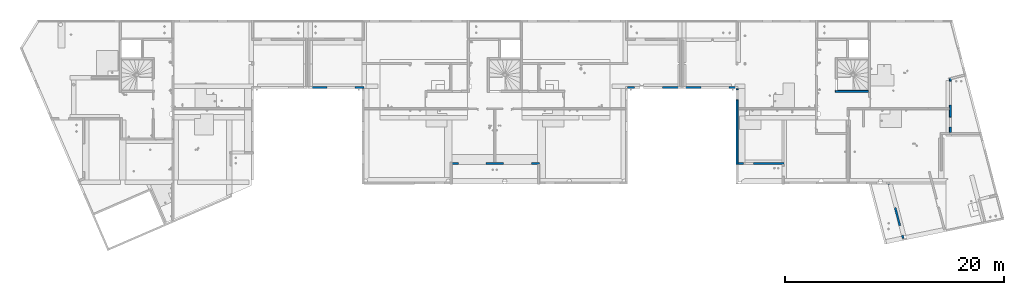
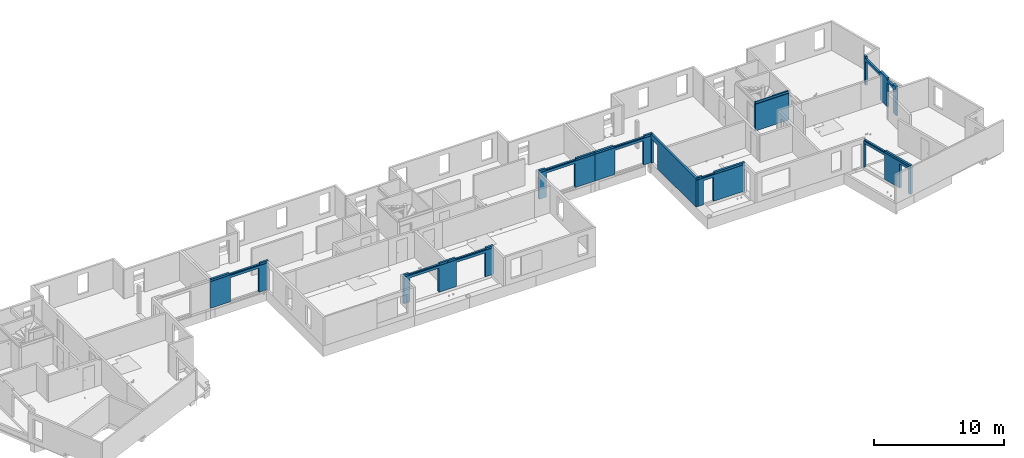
# One storey, part 26 of 34: 9 walls.
"""IFC2X3 building model written with IfcOpenShell, lengths in centimetres."""

from ifc_helpers import new_model, entity, si_unit, converted_unit, derived_unit, direction, frame, origin, place, context, subcontext, project, spatial, faceted_brep, material, layer, layer_set, type_object, element, save


model = new_model("IFC2X3")

# Units and contexts
model_context = context("Model", 3, precision=0.001, world=origin(), true_north=direction((6.12303176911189e-17, 1.0)))
body_context = subcontext(model_context, "Body", "Model", "MODEL_VIEW")
ifc_project = project(units=[si_unit("LENGTHUNIT", "METRE", prefix="CENTI"), si_unit("AREAUNIT", "SQUARE_METRE"), si_unit("VOLUMEUNIT", "CUBIC_METRE"), converted_unit("PLANEANGLEUNIT", "DEGREE", entity("IfcRatioMeasure", 0.0174532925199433), si_unit("PLANEANGLEUNIT", "RADIAN"), dimensions=[0, 0, 0, 0, 0, 0, 0]), si_unit("MASSUNIT", "GRAM", prefix="KILO"), derived_unit("MASSDENSITYUNIT", [(si_unit("MASSUNIT", "GRAM", prefix="KILO"), 1), (si_unit("LENGTHUNIT", "METRE"), -3)]), si_unit("TIMEUNIT", "SECOND"), si_unit("FREQUENCYUNIT", "HERTZ"), si_unit("THERMODYNAMICTEMPERATUREUNIT", "DEGREE_CELSIUS"), derived_unit("THERMALTRANSMITTANCEUNIT", [(si_unit("MASSUNIT", "GRAM", prefix="KILO"), 1), (si_unit("THERMODYNAMICTEMPERATUREUNIT", "KELVIN"), -1), (si_unit("TIMEUNIT", "SECOND"), -3)]), derived_unit("VOLUMETRICFLOWRATEUNIT", [(si_unit("LENGTHUNIT", "METRE"), 3), (si_unit("TIMEUNIT", "SECOND"), -1)]), si_unit("ELECTRICCURRENTUNIT", "AMPERE"), si_unit("ELECTRICVOLTAGEUNIT", "VOLT"), si_unit("POWERUNIT", "WATT"), si_unit("FORCEUNIT", "NEWTON"), si_unit("ILLUMINANCEUNIT", "LUX"), si_unit("LUMINOUSFLUXUNIT", "LUMEN"), si_unit("LUMINOUSINTENSITYUNIT", "CANDELA"), derived_unit("USERDEFINED", [(si_unit("MASSUNIT", "GRAM", prefix="KILO"), -1), (si_unit("LENGTHUNIT", "METRE"), -2), (si_unit("TIMEUNIT", "SECOND"), 3), (si_unit("LUMINOUSFLUXUNIT", "LUMEN"), 1)]), derived_unit("LINEARVELOCITYUNIT", [(si_unit("LENGTHUNIT", "METRE"), 1), (si_unit("TIMEUNIT", "SECOND"), -1)]), si_unit("PRESSUREUNIT", "PASCAL"), derived_unit("USERDEFINED", [(si_unit("LENGTHUNIT", "METRE"), -2), (si_unit("MASSUNIT", "GRAM", prefix="KILO"), 1), (si_unit("TIMEUNIT", "SECOND"), -2)])], contexts=[model_context])

# Site, building, storey
site_placement = place(None, origin())
site = spatial("IfcSite", under=ifc_project, at=site_placement, Name="Default", CompositionType="ELEMENT")
building_placement = place(site_placement, origin())
building = spatial("IfcBuilding", under=site, at=building_placement, Name="CAGE 03", CompositionType="ELEMENT")
storey_placement = place(building_placement, frame((0.0, 0.0, 340.0)))
storey = spatial("IfcBuildingStorey", under=building, at=storey_placement, Name="R+1", CompositionType="ELEMENT", Elevation=340.0)

# Walls
ifc_material = material(Name="Béton, C25/30")
ifc_layer = layer(ifc_material, 18.0)
ifc_layer_set = layer_set([ifc_layer], Name="Mur de base:Voile BA 18")
wall_type_1 = type_object("IfcWallType", Name="Mur de base:Voile BA 18", PredefinedType="STANDARD", material=ifc_layer_set)
wall_1_placement = place(storey_placement, frame((6691.36582014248, 3985.6606660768, 0.0)))
element("IfcWall", 1, at=wall_1_placement, inside=storey, type_object=wall_type_1, Name="Mur de base:Voile BA 18", ObjectType="Mur de base:Voile BA 18", context=body_context, shape_type="Brep", body=[
    faceted_brep([(0.0, -9.0, 270.0), (0.0, -9.0, 0.0), (56.0, -9.0, 0.0), (56.0, -9.0, 226.0), (311.0, -9.0, 226.0), (311.0, -9.0, 0.0), (469.0, -9.0, 0.0), (469.0, -9.0, 226.0), (724.0, -9.0, 226.0), (724.0, -9.0, 0.0), (780.0, -9.0, 0.0), (798.0, -9.0, 0.0), (798.0, -9.0, 250.0), (798.0, -9.0, 270.0), (780.0, -9.0, 270.0), (724.0, -9.0, 270.0), (724.0, -9.0, 269.589956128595), (779.0, -9.0, 269.589956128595), (779.0, -9.0, 250.0), (776.0, -9.0, 250.0), (776.0, -9.0, 251.0), (775.0, -9.0, 251.466307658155), (775.0, -9.0, 250.0), (394.499999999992, -9.0, 250.0), (394.499999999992, -9.0, 251.466307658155), (393.499999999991, -9.0, 251.0), (393.499999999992, -9.0, 250.0), (390.499999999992, -9.0, 250.0), (390.499999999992, -9.0, 269.589956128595), (469.0, -9.0, 269.589956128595), (469.0, -9.0, 270.0), (311.0, -9.0, 270.0), (311.0, -9.0, 269.589956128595), (389.5, -9.0, 269.589956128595), (389.5, -9.0, 250.0), (386.499999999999, -9.0, 250.0), (386.499999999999, -9.0, 251.0), (385.5, -9.0, 251.466307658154), (385.5, -9.0, 250.0), (5.0, -9.0, 250.0), (5.0, -9.0, 251.466307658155), (4.0, -9.0, 251.0), (4.0, -9.0, 250.0), (1.0, -9.0, 250.0), (1.0, -9.0, 269.589956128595), (56.0, -9.0, 269.589956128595), (56.0, -9.0, 270.0), (56.0, 9.0, 0.0), (0.0, 9.0, 0.0), (0.0, 9.0, 250.0), (0.0, 9.0, 270.0), (48.0, 9.0, 270.0), (48.0, 9.0, 258.0), (319.0, 9.0, 258.0), (319.0, 9.0, 270.0), (461.0, 9.0, 270.0), (461.0, 9.0, 258.0), (732.0, 9.0, 258.0), (732.0, 9.0, 270.0), (798.0, 9.0, 270.0), (798.0, 9.0, 250.0), (798.0, 9.0, 0.0), (724.0, 9.0, 0.0), (724.0, 9.0, 226.0), (469.0, 9.0, 226.0), (469.0, 9.0, 0.0), (399.0, 9.0, 0.0), (381.0, 9.0, 0.0), (311.0, 9.0, 0.0), (311.0, 9.0, 226.0), (56.0, 9.0, 226.0), (732.0, -7.0, 270.0), (724.0, -7.0, 270.0), (389.5, -7.0, 250.0), (389.5, -7.0, 269.609958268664), (319.0, -7.0, 269.609958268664), (319.0, -7.0, 258.0), (48.0, -7.0, 258.0), (48.0, -7.0, 269.609958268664), (1.0, -7.0, 269.609958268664), (1.0, -7.0, 250.0), (4.0, -7.0, 250.0), (4.0, -7.0, 251.0), (5.0, -7.0, 251.466307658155), (5.0, -7.0, 250.0), (385.5, -7.0, 250.0), (385.5, -7.0, 251.466307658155), (386.499999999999, -7.0, 251.0), (386.499999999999, -7.0, 250.0), (461.0, -7.0, 258.0), (732.0, -7.0, 258.0), (394.499999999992, -7.0, 250.0), (775.0, -7.0, 250.0), (775.0, -7.0, 251.466307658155), (776.0, -7.0, 251.0), (776.0, -7.0, 250.0), (779.0, -7.0, 250.0), (779.0, -7.0, 269.609958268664), (732.0, -7.0, 269.609958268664), (461.0, -7.0, 269.609958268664), (390.499999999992, -7.0, 269.609958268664), (390.499999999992, -7.0, 250.0), (393.499999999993, -7.0, 250.0), (393.499999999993, -7.0, 251.0), (394.499999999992, -7.0, 251.466307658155), (56.0, -7.0, 269.609958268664), (56.0, -7.0, 270.0), (311.0, -7.0, 269.609958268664), (311.0, -7.0, 270.0), (469.0, -7.0, 269.609958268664), (469.0, -7.0, 270.0), (724.0, -7.0, 269.609958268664), (319.0, -7.0, 270.0), (48.0, -7.0, 270.0), (461.0, -7.0, 270.0)], [[[0, 1, 2, 3, 4, 5, 6, 7, 8, 9, 10, 11, 12, 13, 14, 15, 16, 17, 18, 19, 20, 21, 22, 23, 24, 25, 26, 27, 28, 29, 30, 31, 32, 33, 34, 35, 36, 37, 38, 39, 40, 41, 42, 43, 44, 45, 46]], [[47, 48, 49, 50, 51, 52, 53, 54, 55, 56, 57, 58, 59, 60, 61, 62, 63, 64, 65, 66, 67, 68, 69, 70]], [[1, 48, 47, 2]], [[13, 59, 58, 71, 72, 15, 14]], [[1, 0, 50, 49, 48]], [[11, 61, 60, 59, 13, 12]], [[4, 69, 68, 5]], [[69, 4, 3, 70]], [[70, 3, 2, 47]], [[8, 63, 62, 9]], [[63, 8, 7, 64]], [[64, 7, 6, 65]], [[73, 74, 75, 76, 77, 78, 79, 80, 81, 82, 83, 84, 85, 86, 87, 88]], [[56, 89, 90, 57]], [[91, 92, 93, 94, 95, 96, 97, 98, 90, 89, 99, 100, 101, 102, 103, 104]], [[81, 80, 43, 42]], [[105, 45, 44, 79, 78]], [[45, 105, 106, 46]], [[107, 32, 31, 108]], [[52, 77, 76, 53]], [[74, 73, 34, 33]], [[80, 79, 44, 43]], [[30, 29, 109, 110]], [[16, 15, 72, 111]], [[102, 101, 27, 26]], [[99, 109, 29, 28, 100]], [[101, 100, 28, 27]], [[97, 96, 18, 17]], [[75, 107, 108, 112]], [[105, 78, 113, 106]], [[88, 87, 36, 35]], [[86, 85, 38, 37]], [[87, 86, 37, 36]], [[82, 81, 42, 41]], [[84, 83, 40, 39]], [[83, 82, 41, 40]], [[98, 111, 72, 71]], [[109, 99, 114, 110]], [[95, 94, 20, 19]], [[93, 92, 22, 21]], [[94, 93, 21, 20]], [[103, 102, 26, 25]], [[91, 104, 24, 23]], [[104, 103, 25, 24]], [[76, 75, 112, 54, 53]], [[78, 77, 52, 51, 113]], [[90, 98, 71, 58, 57]], [[99, 89, 56, 55, 114]], [[98, 97, 17, 16, 111]], [[92, 91, 23, 22]], [[96, 95, 19, 18]], [[74, 33, 32, 107, 75]], [[85, 84, 39, 38]], [[73, 88, 35, 34]], [[31, 30, 110, 114, 55, 54, 112, 108]], [[50, 0, 46, 106, 113, 51]], [[5, 68, 67, 66, 65, 6]], [[61, 11, 10, 9, 62]]]),
])
wall_2_placement = place(storey_placement, frame((8292.36582014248, 4677.6606660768, 0.0)))
element("IfcWall", 2, at=wall_2_placement, inside=storey, type_object=wall_type_1, Name="Mur de base:Voile BA 18", ObjectType="Mur de base:Voile BA 18", context=body_context, shape_type="Brep", body=[
    faceted_brep([(0.0, -9.0, 270.0), (0.0, -9.0, 0.0), (65.0, -9.0, 0.0), (65.0, -9.0, 226.0), (320.0, -9.0, 226.0), (320.0, -9.0, 0.0), (460.0, -9.0, 0.0), (495.0, -9.0, 0.0), (495.0, -9.0, 250.0), (492.0, -9.0, 250.0), (492.0, -9.0, 251.0), (491.0, -9.0, 251.466307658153), (491.0, -9.0, 250.0), (5.0, -9.0, 250.0), (5.0, -9.0, 251.466307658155), (4.0, -9.0, 251.0), (4.0, -9.0, 250.0), (1.0, -9.0, 250.0), (1.0, -9.0, 269.589956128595), (65.0, -9.0, 269.589956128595), (65.0, -9.0, 270.0), (495.0, 9.0, 270.0), (495.0, 9.0, 0.0), (477.0, 9.0, 0.0), (460.0, 9.0, 0.0), (328.0, 9.0, 0.0), (320.0, 9.0, 0.0), (320.0, 9.0, 226.0), (65.0, 9.0, 226.0), (65.0, 9.0, 0.0), (0.0, 9.0, 0.0), (0.0, 9.0, 250.0), (0.0, 9.0, 270.0), (57.0, 9.0, 270.0), (57.0, 9.0, 258.0), (328.0, 9.0, 258.0), (328.0, 9.0, 270.0), (477.0, 9.0, 270.0), (495.0, -9.0, 270.0), (328.0, -7.0, 270.0), (320.0, -7.0, 270.0), (320.0, -9.0, 270.0), (495.0, -9.0, 269.589956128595), (495.0, -7.0, 269.609958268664), (495.0, -7.0, 250.0), (320.0, -7.0, 0.0), (4.0, -7.0, 250.0), (1.0, -7.0, 250.0), (57.0, -7.0, 269.609958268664), (65.0, -7.0, 269.609958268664), (1.0, -7.0, 269.609958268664), (65.0, -7.0, 270.0), (320.0, -9.0, 269.589956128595), (320.0, -7.0, 269.609958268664), (57.0, -7.0, 258.0), (328.0, -7.0, 258.0), (5.0, -7.0, 250.0), (491.0, -7.0, 250.0), (491.0, -7.0, 251.466307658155), (492.0, -7.0, 251.0), (492.0, -7.0, 250.0), (328.0, -7.0, 269.609958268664), (4.0, -7.0, 251.0), (5.0, -7.0, 251.466307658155), (57.0, -7.0, 270.0)], [[[0, 1, 2, 3, 4, 5, 6, 7, 8, 9, 10, 11, 12, 13, 14, 15, 16, 17, 18, 19, 20]], [[21, 22, 23, 24, 25, 26, 27, 28, 29, 30, 31, 32, 33, 34, 35, 36, 37]], [[1, 30, 29, 2]], [[38, 21, 37, 36, 39, 40, 41]], [[1, 0, 32, 31, 30]], [[7, 22, 21, 38, 42, 43, 44, 8]], [[4, 27, 26, 45, 5]], [[27, 4, 3, 28]], [[28, 3, 2, 29]], [[46, 47, 17, 16]], [[48, 49, 19, 18, 50]], [[20, 19, 49, 51]], [[52, 41, 40, 53]], [[34, 54, 55, 35]], [[56, 57, 58, 59, 60, 44, 43, 61, 55, 54, 48, 50, 47, 46, 62, 63]], [[47, 50, 18, 17]], [[61, 53, 40, 39]], [[49, 48, 64, 51]], [[48, 54, 34, 33, 64]], [[60, 59, 10, 9]], [[58, 57, 12, 11]], [[59, 58, 11, 10]], [[62, 46, 16, 15]], [[56, 63, 14, 13]], [[63, 62, 15, 14]], [[55, 61, 39, 36, 35]], [[61, 43, 42, 52, 53]], [[57, 56, 13, 12]], [[44, 60, 9, 8]], [[32, 0, 20, 51, 64, 33]], [[22, 7, 6, 5, 45, 26, 25, 24, 23]], [[38, 41, 52, 42]]]),
])
wall_3_placement = place(storey_placement, frame((9293.36582014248, 4668.66066607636, 0.0), z_axis=(0.0, 0.0, 1.0), x_axis=(0.0, -1.0, 0.0)))
element("IfcWall", 3, at=wall_3_placement, inside=storey, type_object=wall_type_1, Name="Mur de base:Voile BA 18", ObjectType="Mur de base:Voile BA 18", context=body_context, shape_type="Brep", body=[
    faceted_brep([(0.0, -9.0, 270.0), (0.0, -9.0, 0.0), (12.0, -9.0, 0.0), (12.0, -9.0, 226.0), (103.0, -9.0, 226.0), (103.0, -9.0, 0.0), (692.0, -9.0, 0.0), (692.0, -9.0, 250.0), (690.0, -9.0, 250.0), (690.0, -9.0, 270.0), (103.0, -9.0, 270.0), (12.0, -9.0, 270.0), (0.0, 9.0, 0.0), (0.0, 9.0, 250.0), (0.0, 9.0, 270.0), (12.0, 9.0, 270.0), (103.0, 9.0, 270.0), (674.0, 9.0, 270.0), (690.0, 9.0, 270.0), (690.0, 9.0, 250.0), (692.0, 9.0, 250.0), (692.0, 9.0, 0.0), (674.0, 9.0, 0.0), (194.0, 9.0, 0.0), (176.0, 9.0, 0.0), (103.0, 9.0, 0.0), (103.0, 9.0, 226.0), (12.0, 9.0, 226.0), (12.0, 9.0, 0.0), (692.0, -5.0, 250.0), (692.0, -5.0, 251.466307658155), (692.0, -6.0, 251.0), (692.0, -6.0, 250.0), (690.0, -5.0, 251.466307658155), (690.0, -5.0, 250.0), (690.0, -6.0, 250.0), (690.0, -6.0, 251.0)], [[[0, 1, 2, 3, 4, 5, 6, 7, 8, 9, 10, 11]], [[12, 13, 14, 15, 16, 17, 18, 19, 20, 21, 22, 23, 24, 25, 26, 27, 28]], [[1, 12, 28, 2]], [[14, 0, 11, 10, 9, 18, 17, 16, 15]], [[1, 0, 14, 13, 12]], [[6, 21, 20, 29, 30, 31, 32, 7]], [[4, 26, 25, 5]], [[26, 4, 3, 27]], [[27, 3, 2, 28]], [[33, 34, 19, 18, 9, 8, 35, 36]], [[35, 8, 7, 32]], [[36, 35, 32, 31]], [[34, 33, 30, 29]], [[33, 36, 31, 30]], [[34, 29, 20, 19]], [[21, 6, 5, 25, 24, 23, 22]]]),
])
wall_4_placement = place(storey_placement, frame((9302.36582014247, 3985.66066607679, 0.0)))
element("IfcWall", 4, at=wall_4_placement, inside=storey, type_object=wall_type_1, Name="Mur de base:Voile BA 18", ObjectType="Mur de base:Voile BA 18", context=body_context, shape_type="Brep", body=[
    faceted_brep([(49.5000000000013, -9.0, 270.0), (49.0, -9.0, 270.0), (0.0, -9.0, 270.0), (0.0358741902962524, -9.0, 269.589956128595), (49.5000000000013, -9.0, 269.589956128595), (419.0, 9.0, 0.0), (401.0, 9.0, 0.0), (140.0, 9.0, 0.0), (140.0, 9.0, 226.0), (49.0, 9.0, 226.0), (49.0, 9.0, 0.0), (0.0, 9.0, 0.0), (0.0, 9.0, 250.0), (0.0, 9.0, 270.0), (41.5000000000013, 9.0, 270.0), (41.5000000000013, 9.0, 258.0), (147.500000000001, 9.0, 258.0), (147.500000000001, 9.0, 270.0), (419.0, 9.0, 270.0), (419.0, 9.0, 250.0), (0.0, -9.0, 0.0), (49.0, -9.0, 0.0), (419.0, -9.0, 270.0), (147.500000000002, -7.0, 270.0), (139.500000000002, -7.0, 270.0), (139.500000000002, -9.0, 270.0), (140.0, -9.0, 270.0), (401.0, -9.0, 270.0), (0.0, -9.0, 250.0), (0.0, -7.0, 250.0), (0.0, -7.0, 270.0), (419.0, -9.0, 0.0), (419.0, -9.0, 250.0), (140.0, -9.0, 226.0), (140.0, -9.0, 0.0), (49.0, -9.0, 226.0), (0.034124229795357, -7.0, 269.609958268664), (400.0, -7.0, 250.0), (400.0, -7.0, 269.609958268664), (147.500000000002, -7.0, 269.609958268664), (147.500000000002, -7.0, 258.0), (41.5000000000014, -7.0, 258.0), (41.5000000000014, -7.0, 269.609958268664), (396.0, -7.0, 250.0), (396.0, -7.0, 251.466307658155), (397.0, -7.0, 251.0), (397.0, -7.0, 250.0), (49.5000000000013, -7.0, 269.609958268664), (49.5000000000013, -7.0, 270.0), (139.500000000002, -9.0, 269.589956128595), (139.500000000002, -7.0, 269.609958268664), (400.0, -9.0, 250.0), (400.0, -9.0, 269.589956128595), (396.0, -9.0, 250.0), (41.5000000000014, -7.0, 270.0), (397.0, -9.0, 251.0), (397.0, -9.0, 250.0), (396.0, -9.0, 251.466307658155), (401.0, -9.0, 0.0)], [[[0, 1, 2, 3, 4]], [[5, 6, 7, 8, 9, 10, 11, 12, 13, 14, 15, 16, 17, 18, 19]], [[20, 11, 10, 21]], [[22, 18, 17, 23, 24, 25, 26, 27]], [[11, 20, 28, 29, 30, 13, 12]], [[31, 5, 19, 18, 22, 32]], [[33, 8, 7, 34]], [[8, 33, 35, 9]], [[9, 35, 21, 10]], [[30, 36, 3, 2]], [[37, 38, 39, 40, 41, 42, 36, 30, 29, 43, 44, 45, 46]], [[0, 4, 47, 48]], [[49, 25, 24, 50]], [[15, 41, 40, 16]], [[38, 37, 51, 52]], [[36, 42, 47, 4, 3]], [[53, 43, 29, 28]], [[23, 39, 50, 24]], [[47, 42, 54, 48]], [[46, 45, 55, 56]], [[44, 43, 53, 57]], [[45, 44, 57, 55]], [[39, 23, 17, 16, 40]], [[42, 41, 15, 14, 54]], [[37, 46, 56, 51]], [[39, 38, 52, 49, 50]], [[2, 1, 0, 48, 54, 14, 13, 30]], [[5, 31, 58, 34, 7, 6]], [[34, 58, 31, 32, 22, 27, 26, 25, 49, 52, 51, 56, 55, 57, 53, 28, 20, 21, 35, 33]]]),
])
wall_5_placement = place(storey_placement, frame((10678.3331842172, 3798.9347832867, 0.0), z_axis=(0.0, 0.0, 1.0), x_axis=(0.252679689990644, -0.967549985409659, 0.0)))
element("IfcWall", 5, at=wall_5_placement, inside=storey, type_object=wall_type_1, Name="Mur de base:Voile BA 18", ObjectType="Mur de base:Voile BA 18", context=body_context, shape_type="Brep", body=[
    faceted_brep([(6.0409106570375, -9.0, 270.0), (0.0, -9.0, 270.0), (0.0, -9.0, 269.589956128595), (6.04091065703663, -9.0, 269.589956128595), (6.0409106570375, -7.0, 269.609958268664), (6.04091065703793, -7.0, 270.0), (0.522308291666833, -7.0, 269.609958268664), (0.522308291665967, -7.0, 270.0)], [[[0, 1, 2, 3]], [[0, 3, 4, 5]], [[6, 4, 3, 2]], [[4, 6, 7, 5]], [[2, 1, 7, 6]], [[1, 0, 5, 7]]]),
    faceted_brep([(515.782049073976, 9.0, 0.0), (486.040910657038, 9.0, 0.0), (486.040910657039, 9.0, 226.0), (395.040910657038, 9.0, 226.0), (395.040910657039, 9.0, 0.0), (226.040910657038, 9.0, 0.0), (226.040910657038, 9.0, 226.0), (6.04091065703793, 9.0, 226.0), (6.04091065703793, 9.0, 0.0), (4.70077462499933, 9.0, 0.0), (4.7007746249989, 9.0, 250.0), (4.7007746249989, 9.0, 258.0), (234.040910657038, 9.0, 258.0), (234.040910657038, 9.0, 270.0), (395.040910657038, 9.0, 270.0), (486.040910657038, 9.0, 270.0), (515.782049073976, 9.0, 270.0), (515.782049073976, 9.0, 250.0), (0.0, -9.0, 0.0), (6.04091065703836, -9.0, 0.0), (514.841757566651, -9.0, 270.0), (234.040910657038, -7.0, 270.0), (226.040910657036, -7.0, 270.0), (226.040910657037, -9.0, 270.0), (395.040910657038, -9.0, 270.0), (486.040910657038, -9.0, 270.0), (0.0, -9.0, 250.0), (0.5223082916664, -7.0, 250.0), (0.5223082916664, -7.0, 258.0), (514.841757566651, -9.0, 0.0), (486.040910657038, -9.0, 226.0), (486.040910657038, -9.0, 0.0), (395.040910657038, -9.0, 226.0), (395.040910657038, -9.0, 0.0), (226.040910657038, -9.0, 226.0), (226.040910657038, -9.0, 0.0), (6.04091065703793, -9.0, 226.0), (234.040910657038, -7.0, 258.0), (226.040910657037, -9.0, 269.589956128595), (226.040910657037, -7.0, 269.609958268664), (2.04091065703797, -7.0, 250.0), (509.939416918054, -7.0, 250.0), (509.939416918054, -7.0, 251.466307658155), (510.940780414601, -7.0, 251.0), (510.940780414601, -7.0, 250.0), (513.944870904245, -7.0, 250.0), (513.944870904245, -7.0, 269.609958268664), (234.040910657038, -7.0, 269.609958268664), (1.04091065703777, -7.0, 250.0), (1.04091065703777, -7.0, 251.0), (2.04091065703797, -7.0, 251.466307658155), (1.04091065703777, -9.0, 250.0), (513.840394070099, -9.0, 250.0), (513.840394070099, -9.0, 269.589956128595), (510.836303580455, -9.0, 251.0), (510.836303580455, -9.0, 250.0), (509.834940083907, -9.0, 250.0), (509.834940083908, -9.0, 251.466307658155), (1.04091065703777, -9.0, 251.0), (2.04091065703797, -9.0, 251.466307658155), (2.04091065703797, -9.0, 250.0), (513.883798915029, -9.0, 0.0)], [[[0, 1, 2, 3, 4, 5, 6, 7, 8, 9, 10, 11, 12, 13, 14, 15, 16, 17]], [[18, 9, 8, 19]], [[20, 16, 15, 14, 13, 21, 22, 23, 24, 25]], [[9, 18, 26, 27, 28, 11, 10]], [[20, 29, 0, 17, 16]], [[30, 2, 1, 31]], [[2, 30, 32, 3]], [[3, 32, 33, 4]], [[34, 6, 5, 35]], [[6, 34, 36, 7]], [[7, 36, 19, 8]], [[11, 28, 37, 12]], [[38, 23, 22, 39]], [[40, 41, 42, 43, 44, 45, 46, 47, 37, 28, 27, 48, 49, 50]], [[51, 48, 27, 26]], [[46, 45, 52, 53]], [[47, 39, 22, 21]], [[44, 43, 54, 55]], [[42, 41, 56, 57]], [[43, 42, 57, 54]], [[49, 48, 51, 58]], [[40, 50, 59, 60]], [[50, 49, 58, 59]], [[37, 47, 21, 13, 12]], [[47, 46, 53, 38, 39]], [[41, 40, 60, 56]], [[45, 44, 55, 52]], [[4, 33, 35, 5]], [[0, 29, 61, 31, 1]], [[29, 20, 25, 24, 23, 38, 53, 52, 55, 54, 57, 56, 60, 59, 58, 51, 26, 18, 19, 36, 34, 35, 33, 32, 30, 31, 61]]]),
])
wall_6_placement = place(storey_placement, frame((11239.3658201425, 4266.66066607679, 0.0), z_axis=(0.0, 0.0, 1.0), x_axis=(0.0, 1.0, 0.0)))
element("IfcWall", 6, at=wall_6_placement, inside=storey, type_object=wall_type_1, Name="Mur de base:Voile BA 18", ObjectType="Mur de base:Voile BA 18", context=body_context, shape_type="Brep", body=[
    faceted_brep([(0.0, -9.0, 0.0), (50.0, -9.0, 0.0), (50.0, -9.0, 226.0), (141.0, -9.0, 226.0), (141.0, -9.0, 0.0), (250.0, -9.0, 0.0), (250.0, -9.0, 226.0), (470.0, -9.0, 226.0), (470.0, -9.0, 0.0), (483.640736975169, -9.0, 0.0), (495.0, -9.0, 0.0), (502.244426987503, -9.0, 0.0), (502.244426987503, -9.0, 250.0), (502.244426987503, -9.0, 270.0), (483.640736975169, -9.0, 270.0), (470.0, -9.0, 270.0), (470.0, -9.0, 269.609958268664), (470.0, -9.0, 265.0), (470.0, -9.0, 250.0), (250.0, -9.0, 250.0), (250.0, -9.0, 265.0), (250.0, -9.0, 269.609958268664), (250.0, -9.0, 270.0), (141.0, -9.0, 270.0), (141.0, -9.0, 269.609958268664), (141.0, -9.0, 265.0), (141.0, -9.0, 250.0), (50.0, -9.0, 250.0), (50.0, -9.0, 265.0), (50.0, -9.0, 269.609958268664), (50.0, -9.0, 270.0), (0.0, -9.0, 270.0), (0.0, -9.0, 269.609958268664), (0.0, -9.0, 250.0), (50.0, 9.0, 0.0), (0.0, 9.0, 0.0), (0.0, 9.0, 250.0), (0.0, 9.0, 270.0), (50.0, 9.0, 270.0), (50.0, 9.0, 250.0), (141.0, 9.0, 250.0), (141.0, 9.0, 270.0), (250.0, 9.0, 270.0), (250.0, 9.0, 250.0), (470.0, 9.0, 250.0), (470.0, 9.0, 270.0), (497.543652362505, 9.0, 270.0), (497.543652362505, 9.0, 250.0), (497.543652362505, 9.0, 0.0), (495.0, 9.0, 0.0), (470.0, 9.0, 0.0), (470.0, 9.0, 226.0), (250.0, 9.0, 226.0), (250.0, 9.0, 0.0), (226.0, 9.0, 0.0), (208.0, 9.0, 0.0), (141.0, 9.0, 0.0), (141.0, 9.0, 226.0), (50.0, 9.0, 226.0)], [[[0, 1, 2, 3, 4, 5, 6, 7, 8, 9, 10, 11, 12, 13, 14, 15, 16, 17, 18, 19, 20, 21, 22, 23, 24, 25, 26, 27, 28, 29, 30, 31, 32, 33]], [[34, 35, 36, 37, 38, 39, 40, 41, 42, 43, 44, 45, 46, 47, 48, 49, 50, 51, 52, 53, 54, 55, 56, 57, 58]], [[1, 0, 35, 34]], [[13, 46, 45, 15, 14]], [[11, 48, 47, 46, 13, 12]], [[58, 2, 1, 34]], [[2, 58, 57, 3]], [[3, 57, 56, 4]], [[52, 6, 5, 53]], [[6, 52, 51, 7]], [[7, 51, 50, 8]], [[31, 37, 36, 35, 0, 33, 32]], [[42, 22, 21, 20, 19, 43]], [[15, 45, 44, 18, 17, 16]], [[38, 30, 29, 28, 27, 39]], [[23, 41, 40, 26, 25, 24]], [[26, 40, 39, 27]], [[43, 19, 18, 44]], [[23, 22, 42, 41]], [[37, 31, 30, 38]], [[4, 56, 55, 54, 53, 5]], [[48, 11, 10, 9, 8, 50, 49]]]),
])
wall_7_placement = place(storey_placement, frame((8789.36582014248, 4677.66066607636, 0.0)))
element("IfcWall", 7, at=wall_7_placement, inside=storey, type_object=wall_type_1, Name="Mur de base:Voile BA 18", ObjectType="Mur de base:Voile BA 18", context=body_context, shape_type="Brep", body=[
    faceted_brep([(175.0, -9.0, 270.0), (0.0, -9.0, 270.0), (0.0, -9.0, 269.589956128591), (175.0, -9.0, 269.589956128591), (513.0, 9.0, 0.0), (485.999075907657, 9.0, 0.0), (450.999075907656, 9.0, 0.0), (438.0, 9.0, 0.0), (430.0, 9.0, 0.0), (430.0, 9.0, 226.0), (175.0, 9.0, 226.0), (175.0, 9.0, 0.0), (167.0, 9.0, 0.0), (35.0, 9.0, 0.0), (18.0, 9.0, 0.0), (0.0, 9.0, 0.0), (0.0, 9.0, 270.0), (18.0, 9.0, 270.0), (167.0, 9.0, 270.0), (167.0, 9.0, 258.0), (438.0, 9.0, 258.0), (438.0, 9.0, 270.0), (513.0, 9.0, 270.0), (513.0, 9.0, 250.0), (175.0, -9.0, 0.0), (35.0, -9.0, 0.0), (0.0, -9.0, 0.0), (175.0, -7.0, 0.0), (513.0, -9.0, 270.0), (438.0, -7.0, 270.0), (430.0, -7.0, 270.0), (430.0, -9.0, 270.0), (495.0, -9.0, 270.0), (513.0, -9.0, 0.0), (513.0, -9.0, 250.0), (430.0, -9.0, 226.0), (430.0, -7.0, 0.0), (430.0, -9.0, 0.0), (175.0, -9.0, 226.0), (175.0, -7.0, 269.609958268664), (175.0, -7.0, 270.0), (430.0, -9.0, 269.589956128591), (430.0, -7.0, 269.609958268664), (167.0, -7.0, 258.0), (438.0, -7.0, 258.0), (3.0, -7.0, 250.0), (0.0, -7.0, 250.0), (0.0, -9.0, 250.0), (3.0, -9.0, 250.0), (167.0, -7.0, 269.609958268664), (0.0, -7.0, 269.609958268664), (494.0, -7.0, 269.609958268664), (494.0, -7.0, 250.0), (494.0, -9.0, 250.0), (494.0, -9.0, 269.589956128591), (4.0, -7.0, 250.0), (490.0, -7.0, 250.0), (490.0, -7.0, 251.466307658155), (491.0, -7.0, 251.0), (491.0, -7.0, 250.0), (438.0, -7.0, 269.609958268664), (3.0, -7.0, 251.0), (4.0, -7.0, 251.466307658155), (167.0, -7.0, 270.0), (491.0, -9.0, 251.0), (491.0, -9.0, 250.0), (490.0, -9.0, 250.0), (490.0, -9.0, 251.466307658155), (3.0, -9.0, 251.0), (4.0, -9.0, 251.466307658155), (4.0, -9.0, 250.0), (495.0, -9.0, 0.0), (485.999075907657, -9.0, 0.0), (450.999075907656, -9.0, 0.0)], [[[0, 1, 2, 3]], [[4, 5, 6, 7, 8, 9, 10, 11, 12, 13, 14, 15, 16, 17, 18, 19, 20, 21, 22, 23]], [[24, 25, 26, 15, 14, 13, 12, 11, 27]], [[28, 22, 21, 29, 30, 31, 32]], [[33, 4, 23, 22, 28, 34]], [[35, 9, 8, 36, 37]], [[9, 35, 38, 10]], [[10, 38, 24, 27, 11]], [[0, 3, 39, 40]], [[41, 31, 30, 42]], [[19, 43, 44, 20]], [[45, 46, 47, 48]], [[49, 39, 3, 2, 50]], [[51, 52, 53, 54]], [[55, 56, 57, 58, 59, 52, 51, 60, 44, 43, 49, 50, 46, 45, 61, 62]], [[60, 42, 30, 29]], [[39, 49, 63, 40]], [[59, 58, 64, 65]], [[57, 56, 66, 67]], [[58, 57, 67, 64]], [[61, 45, 48, 68]], [[55, 62, 69, 70]], [[62, 61, 68, 69]], [[1, 16, 15, 26, 47, 46, 50, 2]], [[44, 60, 29, 21, 20]], [[49, 43, 19, 18, 63]], [[60, 51, 54, 41, 42]], [[56, 55, 70, 66]], [[52, 59, 65, 53]], [[1, 0, 40, 63, 18, 17, 16]], [[4, 33, 71, 72, 73, 37, 36, 8, 7, 6, 5]], [[37, 73, 72, 71, 33, 34, 28, 32, 31, 41, 54, 53, 65, 64, 67, 66, 70, 69, 68, 48, 47, 26, 25, 24, 38, 35]]]),
])
wall_8_placement = place(storey_placement, frame((5375.36582014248, 4677.66066607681, 0.0)))
element("IfcWall", 8, at=wall_8_placement, inside=storey, type_object=wall_type_1, Name="Mur de base:Voile BA 18", ObjectType="Mur de base:Voile BA 18", context=body_context, shape_type="Brep", body=[
    faceted_brep([(175.0, -9.0, 270.0), (0.0, -9.0, 270.0), (0.0, -9.0, 269.589956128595), (175.0, -9.0, 269.589956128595), (513.0, 9.0, 0.0), (495.0, 9.0, 0.0), (438.0, 9.0, 0.0), (430.0, 9.0, 0.0), (430.0, 9.0, 226.0), (175.0, 9.0, 226.0), (175.0, 9.0, 0.0), (167.0, 9.0, 0.0), (40.0, 9.0, 0.0), (18.0, 9.0, 0.0), (0.0, 9.0, 0.0), (0.0, 9.0, 270.0), (18.0, 9.0, 270.0), (167.0, 9.0, 270.0), (167.0, 9.0, 258.0), (438.0, 9.0, 258.0), (438.0, 9.0, 270.0), (513.0, 9.0, 270.0), (513.0, 9.0, 250.0), (175.0, -9.0, 0.0), (40.0, -9.0, 0.0), (0.0, -9.0, 0.0), (175.0, -7.0, 0.0), (513.0, -9.0, 270.0), (438.0, -7.0, 270.0), (430.0, -7.0, 270.0), (430.0, -9.0, 270.0), (495.0, -9.0, 270.0), (513.0, -9.0, 0.0), (513.0, -9.0, 250.0), (430.0, -9.0, 226.0), (430.0, -7.0, 0.0), (430.0, -9.0, 0.0), (175.0, -9.0, 226.0), (3.0, -7.0, 250.0), (0.0, -7.0, 250.0), (0.0, -9.0, 250.0), (3.0, -9.0, 250.0), (167.0, -7.0, 269.609958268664), (175.0, -7.0, 269.609958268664), (0.0, -7.0, 269.609958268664), (175.0, -7.0, 270.0), (430.0, -9.0, 269.589956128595), (430.0, -7.0, 269.609958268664), (167.0, -7.0, 258.0), (438.0, -7.0, 258.0), (494.0, -7.0, 269.609958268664), (494.0, -7.0, 250.0), (494.0, -9.0, 250.0), (494.0, -9.0, 269.589956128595), (4.0, -7.0, 250.0), (490.0, -7.0, 250.0), (490.0, -7.0, 251.466307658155), (491.0, -7.0, 251.0), (491.0, -7.0, 250.0), (438.0, -7.0, 269.609958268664), (3.0, -7.0, 251.0), (4.0, -7.0, 251.466307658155), (167.0, -7.0, 270.0), (491.0, -9.0, 251.0), (491.0, -9.0, 250.0), (490.0, -9.0, 250.0), (490.0, -9.0, 251.466307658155), (3.0, -9.0, 251.0), (4.0, -9.0, 251.466307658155), (4.0, -9.0, 250.0), (495.0, -9.0, 0.0)], [[[0, 1, 2, 3]], [[4, 5, 6, 7, 8, 9, 10, 11, 12, 13, 14, 15, 16, 17, 18, 19, 20, 21, 22]], [[23, 24, 25, 14, 13, 12, 11, 10, 26]], [[27, 21, 20, 28, 29, 30, 31]], [[32, 4, 22, 21, 27, 33]], [[34, 8, 7, 35, 36]], [[8, 34, 37, 9]], [[9, 37, 23, 26, 10]], [[38, 39, 40, 41]], [[42, 43, 3, 2, 44]], [[0, 3, 43, 45]], [[46, 30, 29, 47]], [[18, 48, 49, 19]], [[50, 51, 52, 53]], [[54, 55, 56, 57, 58, 51, 50, 59, 49, 48, 42, 44, 39, 38, 60, 61]], [[59, 47, 29, 28]], [[43, 42, 62, 45]], [[58, 57, 63, 64]], [[56, 55, 65, 66]], [[57, 56, 66, 63]], [[60, 38, 41, 67]], [[54, 61, 68, 69]], [[61, 60, 67, 68]], [[1, 15, 14, 25, 40, 39, 44, 2]], [[49, 59, 28, 20, 19]], [[42, 48, 18, 17, 62]], [[59, 50, 53, 46, 47]], [[55, 54, 69, 65]], [[51, 58, 64, 52]], [[1, 0, 45, 62, 17, 16, 15]], [[4, 32, 70, 36, 35, 7, 6, 5]], [[36, 70, 32, 33, 27, 31, 30, 46, 53, 52, 64, 63, 66, 65, 69, 68, 67, 41, 40, 25, 24, 23, 37, 34]]]),
])
wall_type_2 = type_object("IfcWallType", Name="Mur de base:premur 18", PredefinedType="NOTDEFINED")
wall_9_placement = place(storey_placement, frame((10490.3658201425, 4641.66066607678, 0.0), z_axis=(0.0, 0.0, 1.0), x_axis=(-1.0, 0.0, 0.0)))
element("IfcWall", 9, at=wall_9_placement, inside=storey, type_object=wall_type_2, Name="Mur de base:premur 18", ObjectType="Mur de base:premur 18", context=body_context, shape_type="Brep", body=[
    faceted_brep([(0.0, -9.0, 0.0), (141.0, -9.0, 0.0), (287.50000000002, -9.0, 0.0), (294.499999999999, -9.0, 0.0), (300.0, -9.0, 0.0), (300.0, -9.0, 210.0), (300.0, -9.0, 250.0), (294.499999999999, -9.0, 250.0), (294.499999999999, -9.0, 270.0), (287.500000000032, -9.0, 270.0), (287.500000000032, -9.0, 250.0), (141.0, -9.0, 250.0), (141.0, -9.0, 270.0), (0.0, -9.0, 270.0), (300.0, 9.0, 0.0), (0.0, 9.0, 0.0), (0.0, 9.0, 250.0), (300.0, 9.0, 250.0), (0.0, 3.50000000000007, 0.0), (294.499999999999, 3.50000000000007, 270.0), (0.0, 3.4999999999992, 270.0), (141.0, -3.49999999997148, 270.0), (287.500000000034, -3.50000000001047, 270.0), (0.0, 3.4999999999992, 250.0), (294.499999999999, 3.50000000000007, 250.0), (287.500000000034, -3.50000000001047, 250.0), (141.0, -3.49999999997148, 250.0)], [[[0, 1, 2, 3, 4, 5, 6, 7, 8, 9, 10, 11, 12, 13]], [[14, 15, 16, 17]], [[4, 3, 2, 1, 0, 18, 15, 14]], [[8, 19, 20, 13, 12, 21, 22, 9]], [[0, 13, 20, 23, 16, 15, 18]], [[4, 14, 17, 6, 5]], [[24, 7, 6, 17, 16, 23]], [[24, 19, 8, 7]], [[19, 24, 23, 20]], [[25, 26, 11, 10]], [[26, 21, 12, 11]], [[22, 25, 10, 9]], [[26, 25, 22, 21]]]),
])

save(model, "model.ifc")
